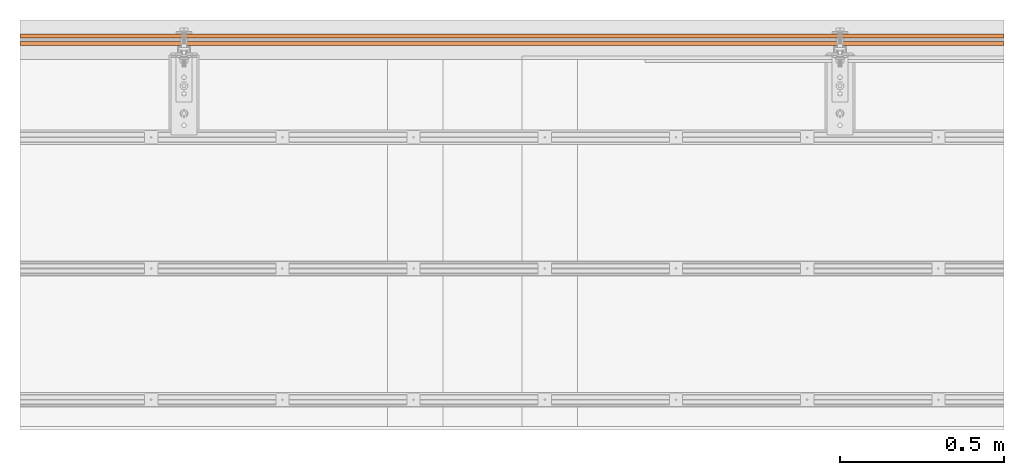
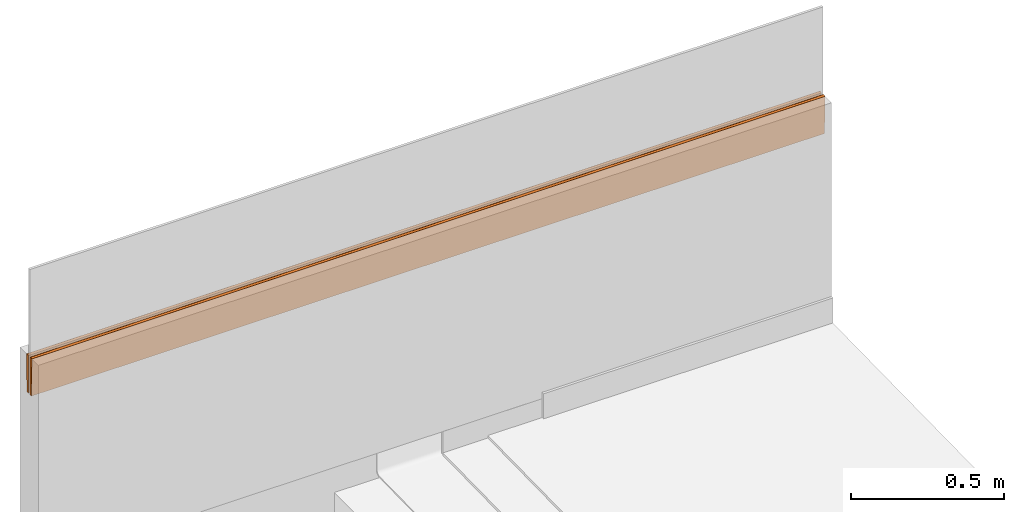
# One storey, part 7 of 8: 1 proxy.
"""IFC2X3 building model written with IfcOpenShell, lengths in metres."""

from ifc_helpers import new_model, entity, si_unit, converted_unit, derived_unit, direction, frame, frame_2d, origin, place, context, subcontext, project, spatial, polyline, circle_curve, parameter, trimmed, segment, composite_curve, outline, extrude, source, transform, mapped, material, type_object, type_shapes, element, save


model = new_model("IFC2X3")

# Units and contexts
model_context = context("Model", 3, precision=1e-05, world=origin(), true_north=direction((6.123031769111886e-17, 1.0)))
body_context = subcontext(model_context, "Body", "Model", "MODEL_VIEW")
ifc_project = project(units=[si_unit("LENGTHUNIT", "METRE"), si_unit("AREAUNIT", "SQUARE_METRE"), converted_unit("PLANEANGLEUNIT", "DEGREE", entity("IfcPlaneAngleMeasure", 0.017453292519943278), si_unit("PLANEANGLEUNIT", "RADIAN"), dimensions=[0, 0, 0, 0, 0, 0, 0]), si_unit("VOLUMEUNIT", "CUBIC_METRE"), derived_unit("THERMALTRANSMITTANCEUNIT", [(si_unit("MASSUNIT", "GRAM", prefix="KILO"), 1), (si_unit("THERMODYNAMICTEMPERATUREUNIT", "KELVIN"), -1), (si_unit("TIMEUNIT", "SECOND"), -3)]), derived_unit("USERDEFINED", [(si_unit("MASSUNIT", "GRAM", prefix="KILO"), 1), (si_unit("THERMODYNAMICTEMPERATUREUNIT", "KELVIN"), -1), (si_unit("TIMEUNIT", "SECOND"), -2)]), derived_unit("THERMALRESISTANCEUNIT", [(si_unit("MASSUNIT", "GRAM", prefix="KILO"), -1), (si_unit("TIMEUNIT", "SECOND"), 3), (si_unit("THERMODYNAMICTEMPERATUREUNIT", "KELVIN"), 1)]), si_unit("PRESSUREUNIT", "PASCAL"), derived_unit("MASSDENSITYUNIT", [(si_unit("MASSUNIT", "GRAM", prefix="KILO"), 1), (si_unit("LENGTHUNIT", "METRE"), -3)]), derived_unit("VAPORPERMEABILITYUNIT", [(si_unit("LENGTHUNIT", "METRE"), -1), (si_unit("TIMEUNIT", "SECOND"), 1)]), derived_unit("USERDEFINED", [(si_unit("MASSUNIT", "GRAM", prefix="KILO"), 1), (si_unit("TIMEUNIT", "SECOND"), -3), (si_unit("LENGTHUNIT", "METRE"), 3), (si_unit("ELECTRICCURRENTUNIT", "AMPERE"), -2)])], contexts=[model_context])

# Site, building, storey
site_placement = place(None, origin())
site = spatial("IfcSite", under=ifc_project, at=site_placement, Name="Default", CompositionType="ELEMENT")
building_placement = place(site_placement, origin())
building = spatial("IfcBuilding", under=site, at=building_placement, CompositionType="ELEMENT")
storey_placement = place(building_placement, origin())
storey = spatial("IfcBuildingStorey", under=building, at=storey_placement, Name="L0", CompositionType="ELEMENT", Elevation=0.0)

# Proxy
ifc_material = material(Name="Caucho, negro")
building_element_proxy_type = type_object("IfcBuildingElementProxyType", Name="Sellado:Sellado", PredefinedType="NOTDEFINED", material=ifc_material)
shared_shape = source(origin(), body_context, "Body", "SweptSolid", [
    extrude(outline(composite_curve([segment(polyline([(-0.004374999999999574, -0.0750000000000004), (0.005624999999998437, -0.0750000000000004)]), True, "CONTINUOUS"), segment(polyline([(0.005624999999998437, -0.0750000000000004), (0.005624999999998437, 0.07500000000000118)]), True, "CONTINUOUS"), segment(trimmed(circle_curve(frame_2d((-0.0006250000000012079, 0.06781090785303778), x_axis=(0.0, -1.0)), 0.009526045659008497), [parameter(138.99719679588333)], [parameter(221.00280320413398)], True, "PARAMETER"), True, "CONTINUOUS"), segment(polyline([(-0.006875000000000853, 0.0749999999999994), (-0.004374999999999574, -0.0750000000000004)]), True, "CONTINUOUS")], self_intersect=False)), frame((4.887720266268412, 15.963905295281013, 0.9250000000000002), z_axis=(1.0, 0.0, 0.0), x_axis=(0.0, 1.0, 0.0)), (0.0, 0.0, 1.0), 2.999999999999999),
    extrude(outline(composite_curve([segment(polyline([(-0.07491667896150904, -0.005624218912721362), (0.07510415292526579, -0.005624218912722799)]), True, "CONTINUOUS"), segment(trimmed(circle_curve(frame_2d((0.06781190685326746, 0.0005051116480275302), x_axis=(-0.9998611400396, -0.016664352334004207)), 0.009526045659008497), [parameter(138.99719679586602)], [parameter(221.00280320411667)], True, "PARAMETER"), True, "CONTINUOUS"), segment(polyline([(0.07489584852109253, 0.006874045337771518), (-0.07508332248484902, 0.004374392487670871)]), True, "CONTINUOUS"), segment(polyline([(-0.07508332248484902, 0.004374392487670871), (-0.07491667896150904, -0.005624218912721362)]), True, "CONTINUOUS")], self_intersect=False)), frame((4.887720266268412, 15.985155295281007, 0.925), z_axis=(1.0, 0.0, 0.0), x_axis=(0.0, 0.016664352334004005, 0.9998611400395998)), (0.0, 0.0, 1.0), 2.999999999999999),
])
type_shapes(building_element_proxy_type, [shared_shape])
proxy_placement = place(storey_placement, origin())
element("IfcBuildingElementProxy", 1, at=proxy_placement, inside=storey, type_object=building_element_proxy_type, material=ifc_material, Name="Sellado:Sellado", ObjectType="Sellado:Sellado", context=body_context, shape_type="MappedRepresentation", body=[
    mapped(shared_shape, transform((0.0, 0.0, 0.0), scale=1.0)),
])

save(model, "model.ifc")
